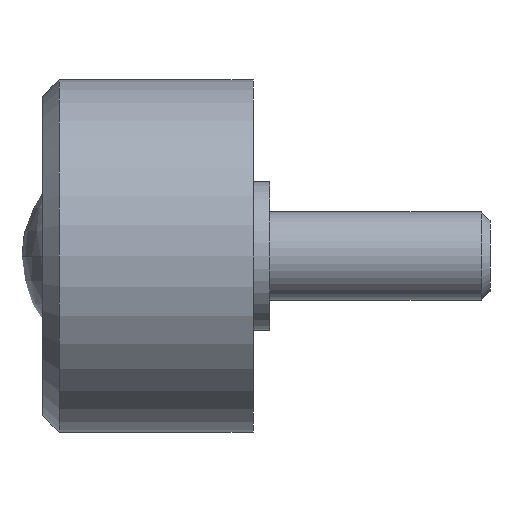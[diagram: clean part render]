
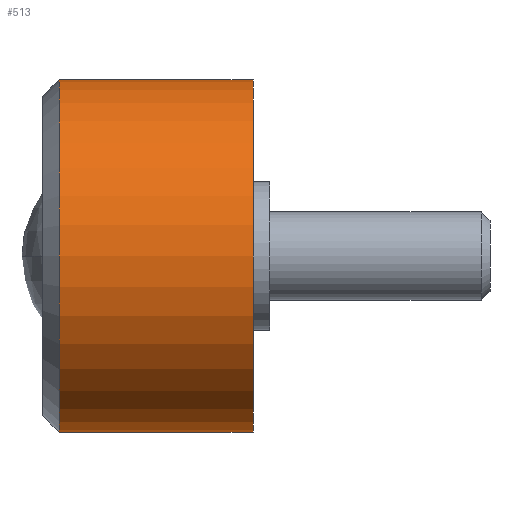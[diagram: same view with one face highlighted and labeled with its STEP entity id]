
A CAD part, left-side view. The second image highlights one B-rep face of the part: STEP entity #513.
In plain terms, the highlighted cylindrical face has radius 16 mm (diameter 32 mm), a partial arc.
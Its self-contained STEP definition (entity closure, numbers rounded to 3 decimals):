
#22 = AXIS2_PLACEMENT_3D ( 'NONE', #208, #442, #257 ) ;
#24 = AXIS2_PLACEMENT_3D ( 'NONE', #220, #521, #685 ) ;
#45 = CIRCLE ( 'NONE', #565, 16. ) ;
#56 = ORIENTED_EDGE ( 'NONE', *, *, #295, .T. ) ;
#57 = DIRECTION ( 'NONE',  ( 0., -1., 0. ) ) ;
#87 = LINE ( 'NONE', #391, #302 ) ;
#102 = LINE ( 'NONE', #604, #227 ) ;
#128 = CIRCLE ( 'NONE', #22, 16. ) ;
#134 = VERTEX_POINT ( 'NONE', #349 ) ;
#135 = CARTESIAN_POINT ( 'NONE',  ( 0., 17.6, -16. ) ) ;
#136 = DIRECTION ( 'NONE',  ( 0., 0., 1. ) ) ;
#138 = ORIENTED_EDGE ( 'NONE', *, *, #232, .F. ) ;
#140 = EDGE_CURVE ( 'NONE', #486, #134, #102, .T. ) ;
#143 = DIRECTION ( 'NONE',  ( 0., -1., 0. ) ) ;
#179 = CARTESIAN_POINT ( 'NONE',  ( 0., 17.6, 0. ) ) ;
#208 = CARTESIAN_POINT ( 'NONE',  ( 0., 0., 0. ) ) ;
#220 = CARTESIAN_POINT ( 'NONE',  ( 0., 0., 0. ) ) ;
#223 = EDGE_CURVE ( 'NONE', #486, #469, #45, .T. ) ;
#227 = VECTOR ( 'NONE', #57, 1000. ) ;
#232 = EDGE_CURVE ( 'NONE', #134, #294, #128, .T. ) ;
#255 = ORIENTED_EDGE ( 'NONE', *, *, #223, .T. ) ;
#257 = DIRECTION ( 'NONE',  ( 0., 0., -1. ) ) ;
#294 = VERTEX_POINT ( 'NONE', #336 ) ;
#295 = EDGE_CURVE ( 'NONE', #469, #294, #87, .T. ) ;
#302 = VECTOR ( 'NONE', #143, 1000. ) ;
#336 = CARTESIAN_POINT ( 'NONE',  ( 0., 0., -16. ) ) ;
#349 = CARTESIAN_POINT ( 'NONE',  ( 0., 0., 16. ) ) ;
#359 = EDGE_LOOP ( 'NONE', ( #364, #255, #56, #138 ) ) ;
#364 = ORIENTED_EDGE ( 'NONE', *, *, #140, .F. ) ;
#391 = CARTESIAN_POINT ( 'NONE',  ( 0., 0., -16. ) ) ;
#442 = DIRECTION ( 'NONE',  ( 0., -1., 0. ) ) ;
#469 = VERTEX_POINT ( 'NONE', #135 ) ;
#486 = VERTEX_POINT ( 'NONE', #606 ) ;
#513 = ADVANCED_FACE ( 'NONE', ( #640 ), #693, .T. ) ;
#521 = DIRECTION ( 'NONE',  ( 0., -1., 0. ) ) ;
#565 = AXIS2_PLACEMENT_3D ( 'NONE', #179, #607, #136 ) ;
#604 = CARTESIAN_POINT ( 'NONE',  ( 0., 0., 16. ) ) ;
#606 = CARTESIAN_POINT ( 'NONE',  ( 0., 17.6, 16. ) ) ;
#607 = DIRECTION ( 'NONE',  ( 0., -1., 0. ) ) ;
#640 = FACE_OUTER_BOUND ( 'NONE', #359, .T. ) ;
#685 = DIRECTION ( 'NONE',  ( 0., 0., -1. ) ) ;
#693 = CYLINDRICAL_SURFACE ( 'NONE', #24, 16. ) ;
